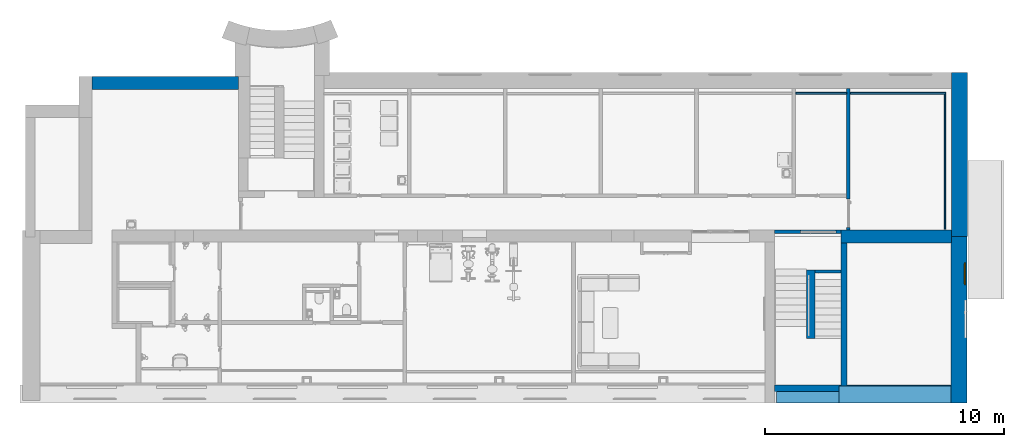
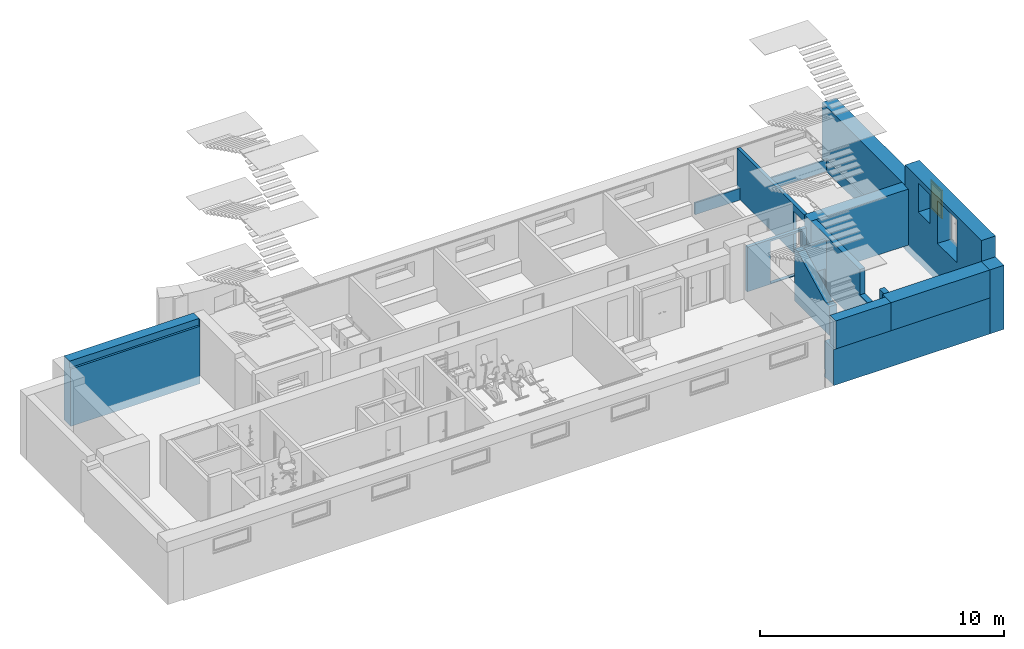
# One storey, part 7 of 23: 15 walls, 1 window, 9 openings.
"""IFC2X3 building model written with IfcOpenShell, lengths in millimetres."""

from ifc_helpers import new_model, entity, si_unit, converted_unit, derived_unit, direction, frame, frame_2d, origin, place, context, subcontext, project, spatial, polyline, rectangle, outline, extrude, clip, halfspace, bounded_halfspace, faceted_brep, source, transform, mapped, material, material_list, layer, layer_set, layer_usage, type_object, type_shapes, element, fill, save


model = new_model("IFC2X3")

# Units and contexts
model_context = context("Model", 3, precision=0.01, world=origin(), true_north=direction((6.12303176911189e-17, 1.0)))
body_context = subcontext(model_context, "Body", "Model", "MODEL_VIEW")
ifc_project = project(units=[si_unit("LENGTHUNIT", "METRE", prefix="MILLI"), si_unit("AREAUNIT", "SQUARE_METRE"), si_unit("VOLUMEUNIT", "CUBIC_METRE"), converted_unit("PLANEANGLEUNIT", "DEGREE", entity("IfcRatioMeasure", 0.0174532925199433), si_unit("PLANEANGLEUNIT", "RADIAN"), dimensions=[0, 0, 0, 0, 0, 0, 0]), si_unit("MASSUNIT", "GRAM", prefix="KILO"), derived_unit("MASSDENSITYUNIT", [(si_unit("MASSUNIT", "GRAM", prefix="KILO"), 1), (si_unit("LENGTHUNIT", "METRE"), -3)]), si_unit("TIMEUNIT", "SECOND"), si_unit("FREQUENCYUNIT", "HERTZ"), si_unit("THERMODYNAMICTEMPERATUREUNIT", "DEGREE_CELSIUS"), derived_unit("THERMALTRANSMITTANCEUNIT", [(si_unit("MASSUNIT", "GRAM", prefix="KILO"), 1), (si_unit("THERMODYNAMICTEMPERATUREUNIT", "KELVIN"), -1), (si_unit("TIMEUNIT", "SECOND"), -3)]), derived_unit("VOLUMETRICFLOWRATEUNIT", [(si_unit("LENGTHUNIT", "METRE"), 3), (si_unit("TIMEUNIT", "SECOND"), -1)]), si_unit("ELECTRICCURRENTUNIT", "AMPERE"), si_unit("ELECTRICVOLTAGEUNIT", "VOLT"), si_unit("POWERUNIT", "WATT"), si_unit("FORCEUNIT", "NEWTON", prefix="KILO"), si_unit("ILLUMINANCEUNIT", "LUX"), si_unit("LUMINOUSFLUXUNIT", "LUMEN"), si_unit("LUMINOUSINTENSITYUNIT", "CANDELA"), derived_unit("USERDEFINED", [(si_unit("MASSUNIT", "GRAM", prefix="KILO"), -1), (si_unit("LENGTHUNIT", "METRE"), -2), (si_unit("TIMEUNIT", "SECOND"), 3), (si_unit("LUMINOUSFLUXUNIT", "LUMEN"), 1)]), derived_unit("LINEARVELOCITYUNIT", [(si_unit("LENGTHUNIT", "METRE"), 1), (si_unit("TIMEUNIT", "SECOND"), -1)]), si_unit("PRESSUREUNIT", "PASCAL"), derived_unit("USERDEFINED", [(si_unit("LENGTHUNIT", "METRE"), -2), (si_unit("MASSUNIT", "GRAM", prefix="KILO"), 1), (si_unit("TIMEUNIT", "SECOND"), -2)]), derived_unit("LINEARFORCEUNIT", [(si_unit("MASSUNIT", "GRAM", prefix="KILO"), 1), (si_unit("LENGTHUNIT", "METRE"), 1), (si_unit("TIMEUNIT", "SECOND"), -2), (si_unit("LENGTHUNIT", "METRE"), -1)]), derived_unit("PLANARFORCEUNIT", [(si_unit("MASSUNIT", "GRAM", prefix="KILO"), 1), (si_unit("LENGTHUNIT", "METRE"), 1), (si_unit("TIMEUNIT", "SECOND"), -2), (si_unit("LENGTHUNIT", "METRE"), -2)])], contexts=[model_context])

# Site, building, storey
site_placement = place(None, origin())
site = spatial("IfcSite", under=ifc_project, at=site_placement, Name="Default", CompositionType="ELEMENT")
building_placement = place(site_placement, origin())
building = spatial("IfcBuilding", under=site, at=building_placement, Name="SMA ARH", CompositionType="ELEMENT")
storey_placement = place(building_placement, frame((0.0, 0.0, -2800.0)))
storey = spatial("IfcBuildingStorey", under=building, at=storey_placement, Name="0 Sokkel", CompositionType="ELEMENT", Elevation=-2800.0)

# Wall
ifc_material_1 = material(Name="_ol.olev sein")
ifc_layer_1 = layer(ifc_material_1, 700.0)
ifc_layer_set_1 = layer_set([ifc_layer_1], Name="Basic Wall:Generic - 700mm")
ifc_layer_usage_1 = layer_usage(ifc_layer_set_1, "AXIS2", "POSITIVE", -350.0)
wall_type_1 = type_object("IfcWallType", Name="Basic Wall:Generic - 700mm", PredefinedType="STANDARD", material=ifc_layer_set_1)
wall_1_placement = place(storey_placement, frame((33530.0, -350.0, 1400.0)))
element("IfcWallStandardCase", 1, at=wall_1_placement, inside=storey, type_object=wall_type_1, material=ifc_layer_usage_1, Name="Basic Wall:Generic - 700mm", ObjectType="Basic Wall:Generic - 700mm", context=body_context, shape_type="SweptSolid", body=[
    extrude(rectangle(XDim=4685.00000000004, YDim=700.0, at=frame_2d((2342.50000000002, 8.5265128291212e-14), x_axis=(-1.0, 0.0))), origin(), (0.0, 0.0, 1.0), 1400.0),
])

# Wall, opening
ifc_layer_2 = layer(ifc_material_1, 665.0)
ifc_layer_set_2 = layer_set([ifc_layer_2], Name="Basic Wall:Generic - 665mm")
ifc_layer_usage_2 = layer_usage(ifc_layer_set_2, "AXIS2", "POSITIVE", -332.5)
wall_type_2 = type_object("IfcWallType", Name="Basic Wall:Generic - 665mm", PredefinedType="STANDARD", material=ifc_layer_set_2)
wall_2_placement = place(storey_placement, frame((38567.5000000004, 5970.0, -400.0), z_axis=(0.0, 0.0, 1.0), x_axis=(0.0, 1.0, 0.0)))
wall_2 = element("IfcWallStandardCase", 2, at=wall_2_placement, inside=storey, type_object=wall_type_2, material=ifc_layer_usage_2, Name="Basic Wall:Generic - 665mm", ObjectType="Basic Wall:Generic - 665mm", context=body_context, shape_type="SweptSolid", body=[
    extrude(rectangle(XDim=6854.99999999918, YDim=665.0, at=frame_2d((3702.49999999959, -1.59161572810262e-12), x_axis=(-1.0, 0.0))), origin(), (0.0, 0.0, 1.0), 3200.0),
])
opening_1_placement = place(wall_2_placement, origin())
element("IfcOpeningElement", 3, at=opening_1_placement, cuts=wall_2, Name="Basic Wall:Generic - 665mm", ObjectType="Opening", context=body_context, shape_type="SweptSolid", body=[
    extrude(rectangle(XDim=1450.0, YDim=949.999999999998, at=frame_2d((-2.55795384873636e-13, 0.0), x_axis=(0.0, 1.0))), frame((-1280.0, -1171.50000000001, 3265.0), z_axis=(0.0, 1.0, 0.0), x_axis=(-1.0, 0.0, 0.0)), (0.0, 0.0, 1.0), 3048.0),
])

# Wall, openings, window
ifc_layer_usage_3 = layer_usage(ifc_layer_set_2, "AXIS2", "NEGATIVE", 332.5)
wall_3_placement = place(storey_placement, frame((38547.5000000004, 6520.0, -400.0), z_axis=(0.0, 0.0, 1.0), x_axis=(0.0, -1.0, 0.0)))
wall_3 = element("IfcWallStandardCase", 4, at=wall_3_placement, inside=storey, type_object=wall_type_2, material=ifc_layer_usage_3, Name="Basic Wall:Generic - 665mm", ObjectType="Basic Wall:Generic - 665mm", context=body_context, shape_type="Clipping", body=[
    clip(clip(extrude(rectangle(XDim=6945.00000000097, YDim=665.0, at=frame_2d((3747.50000000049, -3.69482222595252e-13), x_axis=(-1.0, 0.0))), origin(), (0.0, 0.0, 1.0), 4242.37172766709), bounded_halfspace(frame((6520.0, -332.500000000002, 3200.0), z_axis=(-1.0, 0.0, 0.0), x_axis=(0.0, -1.0, 0.0)), True, frame((6520.0, -332.500000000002, 3200.0), z_axis=(-1.0, 0.0, 0.0), x_axis=(0.0, -1.0, 0.0)), polyline([(0.0, 0.0), (0.0, 1042.37172766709), (-374.900999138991, 1042.37172766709), (-654.900999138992, 1042.37172766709), (-665.0, 1042.37172766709), (-665.0, 0.0), (0.0, 0.0)]))), bounded_halfspace(frame((6520.0, 332.499999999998, 3200.0), z_axis=(0.0, 0.0, -1.0), x_axis=(-1.0, 0.0, 0.0)), True, frame((6520.0, 332.499999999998, 3200.0), z_axis=(0.0, 0.0, -1.0), x_axis=(-1.0, 0.0, 0.0)), polyline([(0.0, 0.0), (-700.0, 0.0), (-700.0, -665.0), (0.0, -665.0), (0.0, 0.0)]))),
])
opening_2_placement = place(wall_3_placement, origin())
element("IfcOpeningElement", 5, at=opening_2_placement, cuts=wall_3, Name="Basic Wall:Generic - 665mm", ObjectType="Opening", context=body_context, shape_type="SweptSolid", body=[
    extrude(rectangle(XDim=1300.0, YDim=2130.0, at=frame_2d((-1.70530256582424e-13, -5.6843418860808e-13), x_axis=(1.0, 0.0))), frame((2285.0, -1481.59900086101, 5180.0), z_axis=(0.0, 1.0, 0.0), x_axis=(0.0, 0.0, 1.0)), (0.0, 0.0, 1.0), 3048.0),
])
opening_3_placement = place(wall_3_placement, frame((2922.05581008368, -332.500000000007, 1915.0)))
element("IfcOpeningElement", 6, at=opening_3_placement, cuts=wall_3, Name="SMA_D02, 2-poolne:VU-AL-03- 1600x2100:1", ObjectType="Opening", context=body_context, shape_type="SweptSolid", body=[
    extrude(rectangle(XDim=2149.99999999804, YDim=1600.0, at=frame_2d((1074.99999999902, 800.0), x_axis=(1.0, 0.0))), frame((0.0, 0.0, 0.0), z_axis=(0.0, 1.0, 0.0), x_axis=(0.0, 0.0, 1.0)), (0.0, 0.0, 1.0), 665.0),
])
opening_4_placement = place(wall_3_placement, frame((1355.0, -332.500000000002, 2540.0)))
opening_4 = element("IfcOpeningElement", 7, at=opening_4_placement, cuts=wall_3, Name="SMA_W1, 1-jaotus1:A-00_950x1450:1", ObjectType="Opening", context=body_context, shape_type="SweptSolid", body=[
    extrude(rectangle(XDim=1450.0, YDim=950.0, at=frame_2d((725.0, 475.0), x_axis=(1.0, 0.0))), frame((0.0, 0.0, 0.0), z_axis=(0.0, 1.0, 0.0), x_axis=(0.0, 0.0, 1.0)), (0.0, 0.0, 1.0), 665.0),
])
ifc_material_2 = material(Name="EST. Klaas. 3x. Default")
ifc_material_3 = material(Name="Default")
ifc_material_list_1 = material_list([ifc_material_2, ifc_material_3])
ifc_material_4 = material(Name="<Unnamed>")
ifc_material_list_2 = material_list([ifc_material_4, ifc_material_4, ifc_material_2, ifc_material_3, ifc_material_3])
window_style = type_object("IfcWindowStyle", Name="SMA_W1, 1-jaotus1:A-00_950x1450", ConstructionType="NOTDEFINED", OperationType="NOTDEFINED", ParameterTakesPrecedence=False, Sizeable=False, material=ifc_material_list_2)
shared_shape = source(origin(), body_context, "Body", "SweptSolid", [
    extrude(rectangle(XDim=20.0, YDim=720.0, at=frame_2d((-1.68753899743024e-14, -5.6843418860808e-14), x_axis=(1.0, 0.0))), frame((475.0, 565.0, 115.0), z_axis=(0.0, 0.0, 1.0), x_axis=(0.0, 1.0, 0.0)), (0.0, 0.0, 1.0), 1220.0),
    extrude(outline(polyline([(-680.0, -430.0), (680.0, -430.0), (680.0, 430.0), (-680.0, 430.0), (-680.0, -430.0)]), holes=[polyline([(610.0, 360.0), (610.0, -360.0), (-610.0, -360.0), (-610.0, 360.0), (610.0, 360.0)])]), frame((475.0, 540.0, 725.0), z_axis=(0.0, 1.0, 0.0), x_axis=(0.0, 0.0, 1.0)), (0.0, 0.0, 1.0), 50.0),
    extrude(outline(polyline([(-715.0, -465.0), (715.0, -465.0), (715.0, 465.0), (-715.0, 465.0), (-715.0, -465.0)]), holes=[polyline([(-645.0, -395.0), (-645.0, 395.0), (645.0, 395.0), (645.0, -395.0), (-645.0, -395.0)])]), frame((475.0, 565.0, 725.0), z_axis=(0.0, 1.0, 0.0), x_axis=(0.0, 0.0, 1.0)), (0.0, 0.0, 1.0), 50.0),
])
type_shapes(window_style, [shared_shape])
window_placement = place(opening_4_placement, origin())
window = element("IfcWindow", 8, at=window_placement, inside=storey, type_object=window_style, material=ifc_material_list_1, Name="SMA_W1, 1-jaotus1:A-00_950x1450", ObjectType="SMA_W1, 1-jaotus1:A-00_950x1450", OverallHeight=1450.0, OverallWidth=950.0, context=body_context, shape_type="MappedRepresentation", body=[
    mapped(shared_shape, transform((0.0, 0.0, 0.0), scale=1.0)),
])
fill(opening_4, window)

# Walls
ifc_layer_3 = layer(ifc_material_1, 550.0)
ifc_layer_set_3 = layer_set([ifc_layer_3], Name="Basic Wall:Generic - 550mm")
wall_type_3 = type_object("IfcWallType", Name="Basic Wall:Generic - 550mm", PredefinedType="STANDARD", material=ifc_layer_set_3)
wall_4_placement = place(storey_placement, frame((2315.0, 12671.2030428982, -400.0)))
element("IfcWall", 9, at=wall_4_placement, inside=storey, type_object=wall_type_3, Name="Basic Wall:Generic - 550mm", ObjectType="Basic Wall:Generic - 550mm", context=body_context, shape_type="Brep", body=[
    faceted_brep([(0.0, -275.0, 0.0), (6125.0, -275.0, 0.0), (6125.0, -275.0, 3200.0), (6115.0, -275.0, 3200.0), (6115.0, -275.0, 2870.0), (0.0, -275.0, 2870.0), (6125.0, 275.0, 0.0), (0.0, 275.0, 0.0), (0.0, 275.0, 3200.0), (5995.0, 275.0, 3200.0), (5995.0, 275.0, 1800.0), (6125.0, 275.0, 1800.0), (6125.0, 275.0, 400.0), (0.0, -175.0, 3200.0), (615.0, -175.0, 3200.0), (2215.0, -175.0, 3200.0), (3480.0, -175.0, 3200.0), (5080.0, -175.0, 3200.0), (6115.0, -175.0, 3200.0), (6125.0, 273.796957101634, 3200.0), (5995.0, 273.796957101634, 3200.0), (0.0, -175.0, 2870.0), (6125.0, 273.796957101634, 1800.0), (6115.0, -175.0, 2870.0), (5995.0, 273.796957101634, 1800.0)], [[[0, 1, 2, 3, 4, 5]], [[6, 7, 8, 9, 10, 11, 12]], [[1, 0, 7, 6]], [[9, 8, 13, 14, 15, 16, 17, 18, 3, 2, 19, 20]], [[7, 0, 5, 21, 13, 8]], [[2, 1, 6, 12, 11, 22, 19]], [[4, 23, 21, 5]], [[21, 23, 18, 17, 16, 15, 14, 13]], [[23, 4, 3, 18]], [[24, 10, 9, 20]], [[24, 20, 19, 22]], [[10, 24, 22, 11]]]),
])
ifc_layer_usage_4 = layer_usage(ifc_layer_set_3, "AXIS2", "NEGATIVE", 275.0)
wall_5_placement = place(storey_placement, frame((38235.0, 6245.0, 0.0), z_axis=(0.0, 0.0, 1.0), x_axis=(-1.0, 0.0, 0.0)))
element("IfcWallStandardCase", 10, at=wall_5_placement, inside=storey, type_object=wall_type_3, material=ifc_layer_usage_4, Name="Basic Wall:Generic - 550mm", ObjectType="Basic Wall:Generic - 550mm", context=body_context, shape_type="SweptSolid", body=[
    extrude(rectangle(XDim=4620.0, YDim=550.000000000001, at=frame_2d((2310.0, 1.13686837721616e-13), x_axis=(-1.0, 0.0))), origin(), (0.0, 0.0, 1.0), 2800.0),
])

# Wall, opening
ifc_material_5 = material(Name="EST. Müüritis. Väikeplokk. Kergkruusplokk")
ifc_layer_4 = layer(ifc_material_5, 150.0)
ifc_layer_set_4 = layer_set([ifc_layer_4], Name="Basic Wall:SS-02_ 150mm šahtide vahesein")
ifc_layer_usage_5 = layer_usage(ifc_layer_set_4, "AXIS2", "POSITIVE", -75.0)
wall_type_4 = type_object("IfcWallType", Name="Basic Wall:SS-02_ 150mm šahtide vahesein", PredefinedType="STANDARD", material=ifc_layer_set_4)
wall_6_placement = place(storey_placement, frame((30830.0, 6445.0, 0.0)))
wall_6 = element("IfcWallStandardCase", 11, at=wall_6_placement, inside=storey, type_object=wall_type_4, material=ifc_layer_usage_5, Name="Basic Wall:SS-02_ 150mm šahtide vahesein", ObjectType="Basic Wall:SS-02_ 150mm šahtide vahesein", context=body_context, shape_type="SweptSolid", body=[
    extrude(rectangle(XDim=2785.00000000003, YDim=150.000000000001, at=frame_2d((1392.50000000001, 3.05533376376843e-13), x_axis=(-1.0, 0.0))), origin(), (0.0, 0.0, 1.0), 2231.44225118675),
])
opening_5_placement = place(wall_6_placement, frame((2585.0, 75.0, 35.0)))
element("IfcOpeningElement", 12, at=opening_5_placement, cuts=wall_6, Name="SMA_D02, 2-poolne:SU-AL-01 - 1500x2100:1", ObjectType="Opening", context=body_context, shape_type="SweptSolid", body=[
    extrude(rectangle(XDim=2099.99999999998, YDim=1500.0, at=frame_2d((1049.99999999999, 750.0), x_axis=(1.0, 0.0))), frame((0.0, 0.0, 0.0), z_axis=(0.0, -1.0, 0.0), x_axis=(0.0, 0.0, 1.0)), (0.0, 0.0, 1.0), 150.0),
])

ifc_layer_5 = layer(ifc_material_1, 250.0)
ifc_layer_set_5 = layer_set([ifc_layer_5], Name="Basic Wall:Generic - 250mm")
ifc_layer_usage_6 = layer_usage(ifc_layer_set_5, "AXIS2", "NEGATIVE", 125.0)
wall_type_5 = type_object("IfcWallType", Name="Basic Wall:Generic - 250mm", PredefinedType="STANDARD", material=ifc_layer_set_5)
wall_7_placement = place(storey_placement, frame((33740.0, 5970.0, 0.0), z_axis=(0.0, 0.0, 1.0), x_axis=(0.0, -1.0, 0.0)))
wall_7 = element("IfcWallStandardCase", 13, at=wall_7_placement, inside=storey, type_object=wall_type_5, material=ifc_layer_usage_6, Name="Basic Wall:Generic - 250mm", ObjectType="Basic Wall:Generic - 250mm", context=body_context, shape_type="SweptSolid", body=[
    extrude(rectangle(XDim=5970.00000000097, YDim=250.000000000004, at=frame_2d((2985.00000000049, -2.8421709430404e-14), x_axis=(-1.0, 0.0))), origin(), (0.0, 0.0, 1.0), 2800.0),
])
opening_6_placement = place(wall_7_placement, origin())
element("IfcOpeningElement", 14, at=opening_6_placement, cuts=wall_7, Name="Basic Wall:Generic - 250mm", ObjectType="Opening", context=body_context, shape_type="SweptSolid", body=[
    extrude(rectangle(XDim=2189.99999999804, YDim=1600.0, at=frame_2d((-1.13686837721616e-13, 0.0), x_axis=(0.0, 1.0))), frame((4785.0, -1649.0, 2625.0), z_axis=(0.0, 1.0, 0.0), x_axis=(-1.0, 0.0, 0.0)), (0.0, 0.0, 1.0), 3048.0),
])

# Wall
ifc_layer_6 = layer(ifc_material_1, 470.0)
ifc_layer_set_6 = layer_set([ifc_layer_6], Name="Basic Wall:Generic - 470mm")
ifc_layer_usage_7 = layer_usage(ifc_layer_set_6, "AXIS2", "POSITIVE", -235.0)
wall_type_6 = type_object("IfcWallType", Name="Basic Wall:Generic - 470mm", PredefinedType="STANDARD", material=ifc_layer_set_6)
wall_8_placement = place(storey_placement, frame((30930.0, -465.0, 1400.0)))
element("IfcWallStandardCase", 15, at=wall_8_placement, inside=storey, type_object=wall_type_6, material=ifc_layer_usage_7, Name="Basic Wall:Generic - 470mm", ObjectType="Basic Wall:Generic - 470mm", context=body_context, shape_type="SweptSolid", body=[
    extrude(rectangle(XDim=2600.0, YDim=470.0, at=frame_2d((1300.0, 0.0), x_axis=(-1.0, 0.0))), origin(), (0.0, 0.0, 1.0), 1400.0),
])

# Wall, opening
ifc_layer_7 = layer(ifc_material_1, 350.0)
ifc_layer_set_7 = layer_set([ifc_layer_7], Name="Basic Wall:Generic - 350mm")
ifc_layer_usage_8 = layer_usage(ifc_layer_set_7, "AXIS2", "NEGATIVE", 175.0)
wall_type_7 = type_object("IfcWallType", Name="Basic Wall:Generic - 350mm", PredefinedType="STANDARD", material=ifc_layer_set_7)
wall_9_placement = place(storey_placement, frame((32355.0, 4840.0, 0.0), z_axis=(0.0, 0.0, 1.0), x_axis=(0.0, -1.0, 0.0)))
wall_9 = element("IfcWallStandardCase", 16, at=wall_9_placement, inside=storey, type_object=wall_type_7, material=ifc_layer_usage_8, Name="Basic Wall:Generic - 350mm", ObjectType="Basic Wall:Generic - 350mm", context=body_context, shape_type="Clipping", body=[
    clip(extrude(rectangle(XDim=2850.00000000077, YDim=349.999999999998, at=frame_2d((1425.00000000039, 9.9475983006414e-14), x_axis=(-1.0, 0.0))), origin(), (0.0, 0.0, 1.0), 2620.0), halfspace(frame((0.0, -175.0, 2620.0), z_axis=(0.0, 0.0, 1.0), x_axis=(0.0, 1.0, 0.0)), False)),
])
opening_7_placement = place(wall_9_placement, origin())
element("IfcOpeningElement", 17, at=opening_7_placement, cuts=wall_9, Name="Basic Wall:Generic - 350mm", ObjectType="Opening", context=body_context, shape_type="SweptSolid", body=[
    extrude(outline(polyline([(-590.0, -718.468385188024), (590.0, -718.468385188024), (590.0, 1863.57708084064), (-590.0, -426.640310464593), (-590.0, -718.468385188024)])), frame((2131.53161481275, 175.0, 2030.0), z_axis=(0.0, -1.0, 0.0), x_axis=(0.0, 0.0, 1.0)), (0.0, 0.0, 1.0), 350.0),
])

# Wall
ifc_layer_8 = layer(ifc_material_1, 750.0)
ifc_layer_set_8 = layer_set([ifc_layer_8], Name="Basic Wall:Generic - 750mm")
ifc_layer_usage_9 = layer_usage(ifc_layer_set_8, "AXIS2", "POSITIVE", -375.0)
wall_type_8 = type_object("IfcWallType", Name="Basic Wall:Generic - 750mm", PredefinedType="STANDARD", material=ifc_layer_set_8)
wall_10_placement = place(storey_placement, frame((30830.0, -325.0, -400.0)))
element("IfcWallStandardCase", 18, at=wall_10_placement, inside=storey, type_object=wall_type_8, material=ifc_layer_usage_9, Name="Basic Wall:Generic - 750mm", ObjectType="Basic Wall:Generic - 750mm", context=body_context, shape_type="Clipping", body=[
    clip(extrude(rectangle(XDim=7385.00000000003, YDim=750.0, at=frame_2d((3692.50000000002, -5.6843418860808e-14), x_axis=(-1.0, 0.0))), origin(), (0.0, 0.0, 1.0), 1800.0), bounded_halfspace(frame((7385.0, 325.0, 150.0), z_axis=(0.0, -1.0, 0.0), x_axis=(0.0, 0.0, 1.0)), True, frame((7385.0, 325.0, 150.0), z_axis=(0.0, -1.0, 0.0), x_axis=(0.0, 0.0, 1.0)), polyline([(0.0, 0.0), (250.0, 0.0), (250.0, 7385.0), (0.0, 7385.0), (0.0, 0.0)]))),
])

# Wall, opening
ifc_layer_9 = layer(ifc_material_5, 150.0)
ifc_layer_set_9 = layer_set([ifc_layer_9], Name="Basic Wall:SS-01_ 150mm soklikorruse seinad")
ifc_layer_usage_10 = layer_usage(ifc_layer_set_9, "AXIS2", "NEGATIVE", 75.0)
wall_type_9 = type_object("IfcWallType", Name="Basic Wall:SS-01_ 150mm soklikorruse seinad", PredefinedType="STANDARD", material=ifc_layer_set_9)
wall_11_placement = place(storey_placement, frame((33925.0, 12435.0, 0.0), z_axis=(0.0, 0.0, 1.0), x_axis=(0.0, -1.0, 0.0)))
wall_11 = element("IfcWallStandardCase", 19, at=wall_11_placement, inside=storey, type_object=wall_type_9, material=ifc_layer_usage_10, Name="Basic Wall:SS-01_ 150mm soklikorruse seinad", ObjectType="Basic Wall:SS-01_ 150mm soklikorruse seinad", context=body_context, shape_type="SweptSolid", body=[
    extrude(rectangle(XDim=5914.99999999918, YDim=150.000000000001, at=frame_2d((2957.49999999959, 4.2632564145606e-14), x_axis=(-1.0, 0.0))), origin(), (0.0, 0.0, 1.0), 2450.0),
])
opening_8_placement = place(wall_11_placement, frame((4615.0, -75.0, 0.0)))
element("IfcOpeningElement", 20, at=opening_8_placement, cuts=wall_11, Name="SMA_D01, 1-poolne:SU-M-01 - 1200x2100 EI-30:1", ObjectType="Opening", context=body_context, shape_type="SweptSolid", body=[
    extrude(rectangle(XDim=2099.99999999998, YDim=1200.0, at=frame_2d((1049.99999999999, 600.0), x_axis=(1.0, 0.0))), frame((0.0, 0.0, 0.0), z_axis=(0.0, 1.0, 0.0), x_axis=(0.0, 0.0, 1.0)), (0.0, 0.0, 1.0), 150.0),
])

ifc_layer_10 = layer(ifc_material_1, 120.0)
ifc_layer_set_10 = layer_set([ifc_layer_10], Name="Basic Wall:Generic - 120mm")
ifc_layer_usage_11 = layer_usage(ifc_layer_set_10, "AXIS2", "NEGATIVE", 60.0)
wall_type_10 = type_object("IfcWallType", Name="Basic Wall:Generic - 120mm", PredefinedType="STANDARD", material=ifc_layer_set_10)
wall_12_placement = place(storey_placement, frame((33615.0, 4780.0, 0.0), z_axis=(0.0, 0.0, 1.0), x_axis=(-1.0, 0.0, 0.0)))
wall_12 = element("IfcWallStandardCase", 21, at=wall_12_placement, inside=storey, type_object=wall_type_10, material=ifc_layer_usage_11, Name="Basic Wall:Generic - 120mm", ObjectType="Basic Wall:Generic - 120mm", context=body_context, shape_type="SweptSolid", body=[
    extrude(rectangle(XDim=1085.00000000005, YDim=120.0, at=frame_2d((542.500000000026, 1.4210854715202e-13), x_axis=(-1.0, 0.0))), origin(), (0.0, 0.0, 1.0), 2620.0),
])
opening_9_placement = place(wall_12_placement, frame((42.4999999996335, -60.0, 0.0)))
element("IfcOpeningElement", 22, at=opening_9_placement, cuts=wall_12, Name="SMA_D01, 1-poolne:SU-M-06 - 1000x1200 EI-30:1", ObjectType="Opening", context=body_context, shape_type="SweptSolid", body=[
    extrude(rectangle(XDim=1199.99999999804, YDim=1000.0, at=frame_2d((599.999999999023, 500.0), x_axis=(1.0, 0.0))), frame((0.0, 0.0, 0.0), z_axis=(0.0, 1.0, 0.0), x_axis=(0.0, 0.0, 1.0)), (0.0, 0.0, 1.0), 120.0),
])

# Walls
ifc_material_6 = material(Name="EST. Ehitusplaat. Kipsplaat")
ifc_layer_11 = layer(ifc_material_6, 12.5)
ifc_layer_12 = layer(ifc_material_6, 12.5)
ifc_material_7 = material(Name="EST. Õhkvahe. Roov. Kipsplaadi alusroov. Vertikaalne")
ifc_layer_13 = layer(ifc_material_7, 50.0)
ifc_layer_set_11 = layer_set([ifc_layer_11, ifc_layer_12, ifc_layer_13], Name="Basic Wall:SS-00_Kips, 50mm metallkarkass ühe poolne")
ifc_layer_usage_12 = layer_usage(ifc_layer_set_11, "AXIS2", "POSITIVE", -37.5)
wall_type_11 = type_object("IfcWallType", Name="Basic Wall:SS-00_Kips, 50mm metallkarkass ühe poolne", PredefinedType="STANDARD", material=ifc_layer_set_11)
wall_13_placement = place(storey_placement, frame((31720.0, 12237.4999999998, 0.0)))
element("IfcWallStandardCase", 23, at=wall_13_placement, inside=storey, type_object=wall_type_11, material=ifc_layer_usage_12, Name="Basic Wall:SS-00_Kips, 50mm metallkarkass ühe poolne", ObjectType="Basic Wall:SS-00_Kips, 50mm metallkarkass ühe poolne", context=body_context, shape_type="SweptSolid", body=[
    extrude(rectangle(XDim=2130.0, YDim=75.0000000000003, at=frame_2d((1065.0, -4.79616346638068e-13), x_axis=(-1.0, 0.0))), origin(), (0.0, 0.0, 1.0), 590.0),
])
ifc_layer_usage_13 = layer_usage(ifc_layer_set_11, "AXIS2", "NEGATIVE", 37.5)
wall_14_placement = place(storey_placement, frame((38002.5000000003, 12237.4999999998, 0.0), z_axis=(0.0, 0.0, 1.0), x_axis=(-1.0, 0.0, 0.0)))
element("IfcWallStandardCase", 24, at=wall_14_placement, inside=storey, type_object=wall_type_11, material=ifc_layer_usage_13, Name="Basic Wall:SS-00_Kips, 50mm metallkarkass ühe poolne", ObjectType="Basic Wall:SS-00_Kips, 50mm metallkarkass ühe poolne", context=body_context, shape_type="SweptSolid", body=[
    extrude(rectangle(XDim=4002.5, YDim=75.0000000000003, at=frame_2d((2001.25, 6.43041175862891e-13), x_axis=(-1.0, 0.0))), origin(), (0.0, 0.0, 1.0), 590.0),
])
ifc_layer_usage_14 = layer_usage(ifc_layer_set_11, "AXIS2", "POSITIVE", -37.5)
wall_15_placement = place(storey_placement, frame((37965.0, 12200.0, 0.0), z_axis=(0.0, 0.0, 1.0), x_axis=(0.0, -1.0, 0.0)))
element("IfcWallStandardCase", 25, at=wall_15_placement, inside=storey, type_object=wall_type_11, material=ifc_layer_usage_14, Name="Basic Wall:SS-00_Kips, 50mm metallkarkass ühe poolne", ObjectType="Basic Wall:SS-00_Kips, 50mm metallkarkass ühe poolne", context=body_context, shape_type="SweptSolid", body=[
    extrude(rectangle(XDim=5650.47662197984, YDim=75.0000000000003, at=frame_2d((2825.23831098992, -2.8421709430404e-14), x_axis=(-1.0, 0.0))), origin(), (0.0, 0.0, 1.0), 590.0),
])

save(model, "model.ifc")
